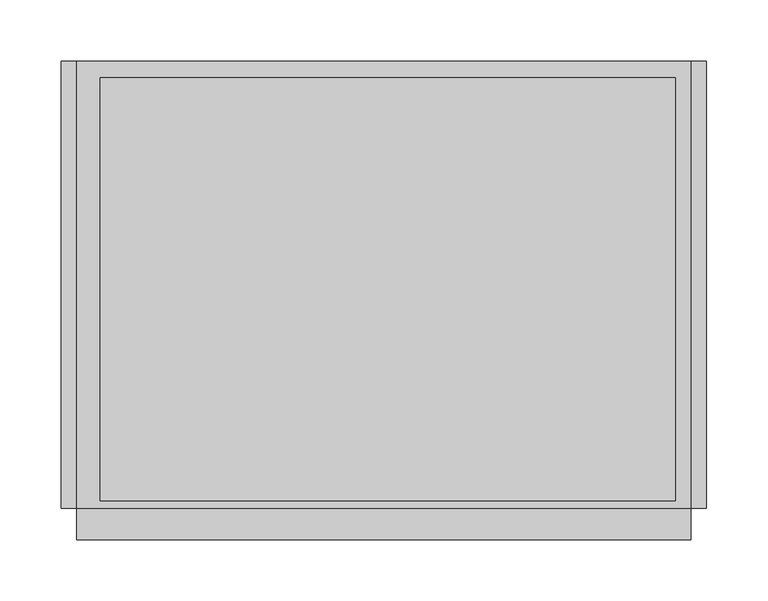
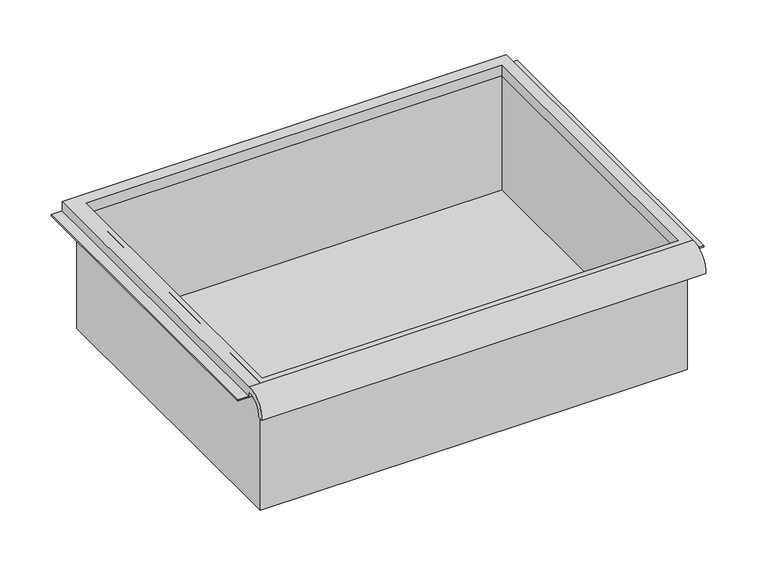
"""IFC4 building model written with IfcOpenShell, lengths in millimetres: furniture geometry."""

from ifc_helpers import new_model, si_unit, frame, origin, place, context, project, spatial, polyline, circle_curve, faceted_brep, source, transform, mapped, element, save
from ifc_brep_helpers import plane_surface, cylinder_surface, revolved_surface, advanced_brep


def furniture_54a6ac53(model_context):
    return source(origin(), model_context, "Body", "SolidModel", [
        advanced_brep(
        [(263.7474999, -195.297482, 815.1849518), (263.7474999, -188.9125, 815.1849518), (263.7474999, -169.8625, 833.446425), (263.7474999, -169.8625, 827.0964246), (263.7474999, 195.2625, 827.0964246), (263.7474999, 195.2625, 839.796425), (263.7474999, -169.8625, 839.796425), (-237.9025001, -195.297482, 815.1849518), (-237.9025001, -169.8625, 839.796425), (-237.9025001, 195.2625, 839.796425), (-237.9025001, 195.2625, 827.0964246), (-237.9025001, -169.8625, 827.0964246), (-237.9025001, -169.8625, 833.446425), (-237.9025001, -188.9125, 815.1849518), (251.0474878, 181.9275, 827.0964246), (-218.8095642, 181.9275, 827.0964246), (-218.8095642, -163.5125, 827.0964246), (251.0474878, -163.5125, 827.0964246), (-218.8095642, 181.9275, 839.796425), (251.0474878, 181.9275, 839.796425), (251.0474878, -163.5125, 839.796425), (-218.8095642, -163.5125, 839.796425)],
        [
            (0, 1),
            (1, 2, circle_curve(frame((263.7474999, -172.3404634, 816.9643622), z_axis=(-1.0, 0.0, 0.0), x_axis=(0.0, 1.0, 0.0)), 16.6672942)),
            (2, 3),
            (3, 4),
            (4, 5),
            (5, 6),
            (6, 0, circle_curve(frame((263.7474999, -172.4601678, 817.0322522), z_axis=(1.0, 0.0, 0.0), x_axis=(0.0, 1.0, 0.0)), 22.9119061)),
            (7, 8, circle_curve(frame((-237.9025001, -172.4601678, 817.0322522), z_axis=(-1.0, 0.0, 0.0), x_axis=(0.0, 1.0, 0.0)), 22.9119061)),
            (8, 9),
            (9, 10),
            (10, 11),
            (11, 12),
            (12, 13, circle_curve(frame((-237.9025001, -172.3404634, 816.9643622), z_axis=(1.0, 0.0, 0.0), x_axis=(0.0, 1.0, 0.0)), 16.6672942)),
            (13, 7),
            (0, 7),
            (13, 1),
            (12, 2),
            (11, 3),
            (10, 4),
            (14, 15),
            (15, 16),
            (16, 17),
            (17, 14),
            (9, 5),
            (8, 6),
            (18, 19),
            (19, 20),
            (20, 21),
            (21, 18),
            (14, 19),
            (18, 15),
            (21, 16),
            (20, 17),
        ],
        [
            plane_surface(frame((263.7474999, -195.297482, 815.1849518), z_axis=(1.0, 0.0, 0.0), x_axis=(0.0, 1.0, 0.0))),
            plane_surface(frame((-237.9025001, -195.297482, 815.1849518), z_axis=(-1.0, 0.0, 0.0), x_axis=(0.0, -1.0, 0.0))),
            plane_surface(frame((263.7474999, -195.297482, 815.1849518), z_axis=(0.0, 0.0, -1.0), x_axis=(-1.0, 0.0, 0.0))),
            revolved_surface(polyline([(-237.9025001, -155.67316920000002, 816.9643622), (263.7474999, -155.67316920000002, 816.9643622)]), (-237.9025001, -172.3404634, 816.9643622), (-1.0, 0.0, 0.0)),
            plane_surface(frame((263.7474999, -169.8625, 833.446425), z_axis=(0.0, -1.0, 0.0), x_axis=(-1.0, 0.0, 0.0))),
            plane_surface(frame((263.7474999, -169.8625, 827.0964246), z_axis=(0.0, 0.0, -1.0), x_axis=(-1.0, 0.0, 0.0))),
            plane_surface(frame((263.7474999, 195.2625, 827.0964246), z_axis=(0.0, 1.0, 0.0), x_axis=(-1.0, 0.0, 0.0))),
            plane_surface(frame((263.7474999, 195.2625, 839.796425), z_axis=(0.0, 0.0, 1.0), x_axis=(-1.0, 0.0, 0.0))),
            cylinder_surface(frame((-237.9025001, -172.4601678, 817.0322522), z_axis=(1.0, 0.0, 0.0), x_axis=(0.0, 1.0, 0.0)), 22.9119061),
            plane_surface(frame((251.0474878, 181.9275, 839.796425), z_axis=(0.0, -1.0, 0.0), x_axis=(0.0, 0.0, -1.0))),
            plane_surface(frame((-218.8095642, 181.9275, 839.796425), z_axis=(1.0, 0.0, 0.0), x_axis=(0.0, 0.0, -1.0))),
            plane_surface(frame((-218.8095642, -163.5125, 839.796425), z_axis=(0.0, 1.0, 0.0), x_axis=(0.0, 0.0, -1.0))),
            plane_surface(frame((251.0474878, -163.5125, 839.796425), z_axis=(-1.0, 0.0, 0.0), x_axis=(0.0, 0.0, -1.0))),
        ],
        [
            (0, [[1, 2, 3, 4, 5, 6, 7]]),
            (1, [[8, 9, 10, 11, 12, 13, 14]]),
            (2, [[-1, 15, -14, 16]]),
            (3, [[-2, -16, -13, 17]]),
            (4, [[-3, -17, -12, 18]]),
            (5, [[-4, -18, -11, 19], [20, 21, 22, 23]]),
            (6, [[-5, -19, -10, 24]]),
            (7, [[-6, -24, -9, 25], [26, 27, 28, 29]]),
            (8, [[-7, -25, -8, -15]]),
            (9, [[30, -26, 31, -20]]),
            (10, [[-31, -29, 32, -21]]),
            (11, [[-32, -28, 33, -22]]),
            (12, [[-30, -23, -33, -27]]),
        ],
    ),
        faceted_brep([(-225.2025001, -169.8625, 687.396425), (257.3974878, -169.8625, 687.396425), (257.3974878, -169.8625, 839.796425), (-225.2025001, -169.8625, 839.796425), (-225.2025001, 188.9125, 687.396425), (-225.2025001, 188.9125, 839.796425), (257.3974878, 188.9125, 839.796425), (257.3974878, 188.9125, 687.396425), (-218.8095642, 181.9275, 839.796425), (251.0474878, 181.9275, 839.796425), (251.0474878, -163.5125, 839.796425), (-218.8095642, -163.5125, 839.796425), (251.0474878, 181.9275, 690.571425), (-218.8095642, 181.9275, 690.571425), (-218.8095642, -163.5125, 690.571425), (251.0474878, -163.5125, 690.571425)], [[[0, 1, 2, 3]], [[4, 5, 6, 7]], [[1, 0, 4, 7]], [[2, 1, 7, 6]], [[3, 2, 6, 5], [8, 9, 10, 11]], [[0, 3, 5, 4]], [[12, 13, 14, 15]], [[13, 12, 9, 8]], [[14, 13, 8, 11]], [[15, 14, 11, 10]], [[12, 15, 10, 9]]]),
        faceted_brep([(-250.6025001, 195.2625, 827.0964246), (-250.6025001, 195.2625, 828.6839246), (-231.5525001, 195.2625, 828.6839246), (-231.5525001, 195.2625, 827.0964246), (-250.6025001, -169.8625, 827.0964246), (-231.5525001, -169.8625, 827.0964246), (-231.5525001, -169.8625, 828.6839246), (-250.6025001, -169.8625, 828.6839246)], [[[0, 1, 2, 3]], [[4, 5, 6, 7]], [[1, 0, 4, 7]], [[2, 1, 7, 6]], [[3, 2, 6, 5]], [[0, 3, 5, 4]]]),
        faceted_brep([(276.4474999, 195.2625, 827.0964246), (263.7474999, 195.2625, 827.0964246), (263.7474999, 195.2625, 828.6839246), (276.4474999, 195.2625, 828.6839246), (276.4474999, -169.8625, 827.0964246), (276.4474999, -169.8625, 828.6839246), (263.7474999, -169.8625, 828.6839246), (263.7474999, -169.8625, 827.0964246)], [[[0, 1, 2, 3]], [[4, 5, 6, 7]], [[1, 0, 4, 7]], [[2, 1, 7, 6]], [[3, 2, 6, 5]], [[0, 3, 5, 4]]]),
    ])


if __name__ == "__main__":
    model = new_model("IFC4")
    model_context = context("Model", 3, world=origin())
    ifc_project = project(units=[si_unit("LENGTHUNIT", "METRE", prefix="MILLI")], contexts=[model_context])
    site = spatial("IfcSite", under=ifc_project)
    building = spatial("IfcBuilding", under=site)
    placement = place(None, origin())
    furniture_shape = furniture_54a6ac53(model_context)
    element("IfcFurniture", 1, ObjectType="HermanMiller_Carts_CT501_Drawer : 6\"H x 15\"D x 20\"W", at=placement, inside=building, context=model_context, shape_type="MappedRepresentation", body=[
        mapped(furniture_shape, transform((0.0, 0.0, 0.0), x_axis=(1.0, 0.0, 0.0), y_axis=(0.0, 1.0, 0.0), z_axis=(0.0, 0.0, 1.0))),
    ])
    save(model, "model.ifc")
